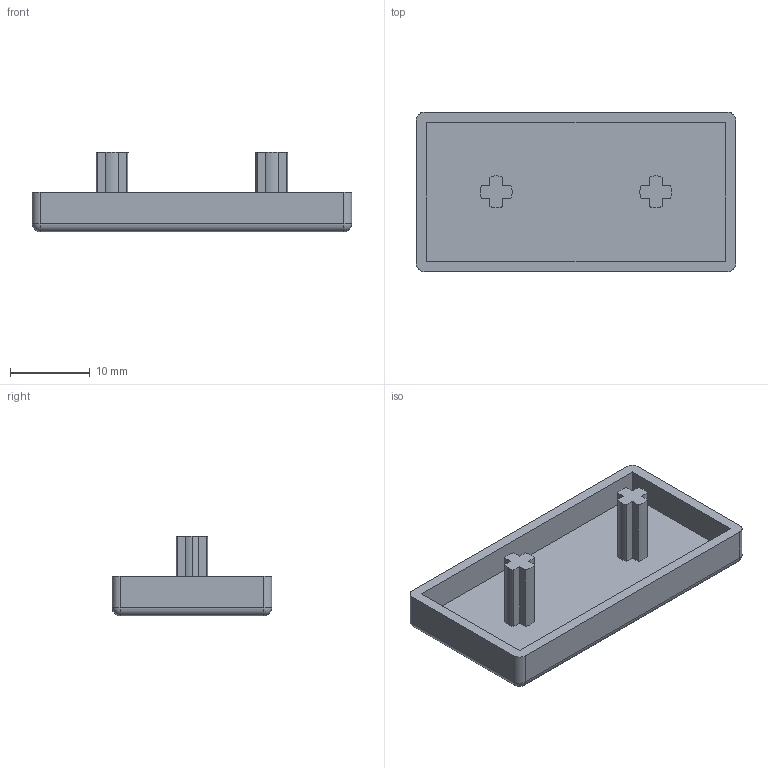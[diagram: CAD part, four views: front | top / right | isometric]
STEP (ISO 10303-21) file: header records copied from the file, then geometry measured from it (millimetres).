
FILE_DESCRIPTION (( 'STEP AP203' ), '1' );
FILE_NAME ('DEC2040.STEP', '2022-06-23T03:32:10', ( '' ), ( '' ), 'SwSTEP 2.0', 'SolidWorks 2017', '' );
FILE_SCHEMA (( 'CONFIG_CONTROL_DESIGN' ));
Length unit declared in the file: millimetre
Products named in the file (1): DEC2040
Bounding box: 40 x 20 x 10 mm (x, y, z)
Volume: 1734.9 mm3; surface area: 2802.4 mm2
Topology: 1 solids, 1 shells, 51 faces, 130 edges, 80 vertices
Faces by surface type: plane 29, cylinder 18, sphere 4
Entity records: 1577 total; most frequent: DIRECTION 266, CARTESIAN_POINT 258, ORIENTED_EDGE 252, EDGE_CURVE 126, LINE 90, VECTOR 90, AXIS2_PLACEMENT_3D 88, VERTEX_POINT 80
